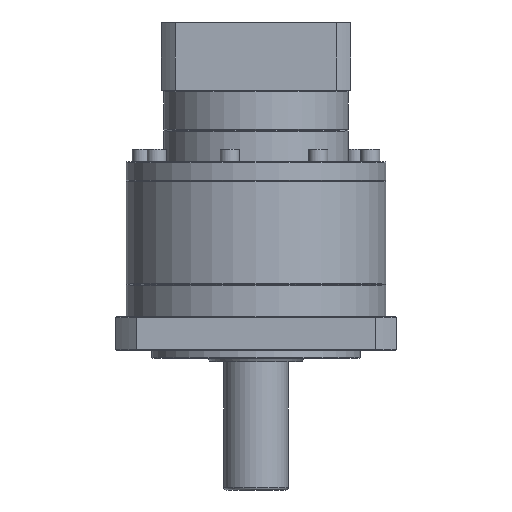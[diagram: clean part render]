
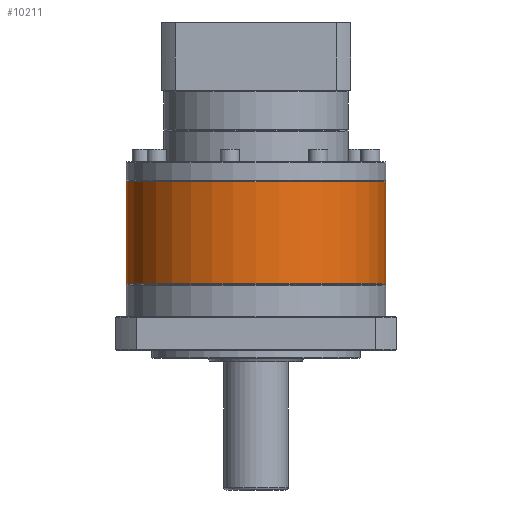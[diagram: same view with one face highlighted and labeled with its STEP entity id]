
A CAD part, front view. The second image highlights one B-rep face of the part: STEP entity #10211.
In plain terms, the highlighted cylindrical face has radius 81 mm (diameter 162 mm), a partial arc.
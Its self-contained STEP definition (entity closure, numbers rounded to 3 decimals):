
#704 = LINE ( 'NONE', #5701, #78376 ) ;
#4469 = AXIS2_PLACEMENT_3D ( 'NONE', #38375, #62894, #23220 ) ;
#5701 = CARTESIAN_POINT ( 'NONE',  ( -208.59, 63.63, -40.07 ) ) ;
#7938 = FACE_OUTER_BOUND ( 'NONE', #49934, .T. ) ;
#10211 = ADVANCED_FACE ( 'NONE', ( #7938 ), #54489, .T. ) ;
#13897 = LINE ( 'NONE', #47080, #15117 ) ;
#15117 = VECTOR ( 'NONE', #29739, 1000. ) ;
#15574 = CARTESIAN_POINT ( 'NONE',  ( -127.59, 63.63, -40.07 ) ) ;
#15975 = AXIS2_PLACEMENT_3D ( 'NONE', #15574, #65018, #82430 ) ;
#23220 = DIRECTION ( 'NONE',  ( -1., 0., 0. ) ) ;
#26409 = CARTESIAN_POINT ( 'NONE',  ( -46.59, 63.63, -104.07 ) ) ;
#28135 = EDGE_CURVE ( 'NONE', #70969, #87093, #704, .T. ) ;
#28591 = ORIENTED_EDGE ( 'NONE', *, *, #49213, .F. ) ;
#28593 = CARTESIAN_POINT ( 'NONE',  ( -127.59, 63.63, -40.57 ) ) ;
#29739 = DIRECTION ( 'NONE',  ( 0., 0., -1. ) ) ;
#32584 = CIRCLE ( 'NONE', #104303, 81. ) ;
#36908 = ORIENTED_EDGE ( 'NONE', *, *, #28135, .T. ) ;
#37277 = CARTESIAN_POINT ( 'NONE',  ( -46.59, 63.63, -40.57 ) ) ;
#37871 = DIRECTION ( 'NONE',  ( 0., 0., -1. ) ) ;
#38375 = CARTESIAN_POINT ( 'NONE',  ( -127.59, 63.63, -104.07 ) ) ;
#40716 = EDGE_CURVE ( 'NONE', #87093, #76699, #104712, .T. ) ;
#44099 = CARTESIAN_POINT ( 'NONE',  ( -208.59, 63.63, -40.57 ) ) ;
#45752 = CARTESIAN_POINT ( 'NONE',  ( -208.59, 63.63, -104.07 ) ) ;
#46825 = ORIENTED_EDGE ( 'NONE', *, *, #40716, .T. ) ;
#47080 = CARTESIAN_POINT ( 'NONE',  ( -46.59, 63.63, -40.07 ) ) ;
#49213 = EDGE_CURVE ( 'NONE', #73798, #76699, #13897, .T. ) ;
#49934 = EDGE_LOOP ( 'NONE', ( #28591, #52153, #36908, #46825 ) ) ;
#52153 = ORIENTED_EDGE ( 'NONE', *, *, #93817, .T. ) ;
#54489 = CYLINDRICAL_SURFACE ( 'NONE', #15975, 81. ) ;
#61753 = DIRECTION ( 'NONE',  ( 0., 0., -1. ) ) ;
#62894 = DIRECTION ( 'NONE',  ( 0., 0., 1. ) ) ;
#65018 = DIRECTION ( 'NONE',  ( 0., 0., -1. ) ) ;
#70969 = VERTEX_POINT ( 'NONE', #44099 ) ;
#73798 = VERTEX_POINT ( 'NONE', #37277 ) ;
#76699 = VERTEX_POINT ( 'NONE', #26409 ) ;
#78376 = VECTOR ( 'NONE', #37871, 1000. ) ;
#82430 = DIRECTION ( 'NONE',  ( -1., 0., 0. ) ) ;
#85740 = DIRECTION ( 'NONE',  ( -1., 0., 0. ) ) ;
#87093 = VERTEX_POINT ( 'NONE', #45752 ) ;
#93817 = EDGE_CURVE ( 'NONE', #73798, #70969, #32584, .T. ) ;
#104303 = AXIS2_PLACEMENT_3D ( 'NONE', #28593, #61753, #85740 ) ;
#104712 = CIRCLE ( 'NONE', #4469, 81. ) ;
